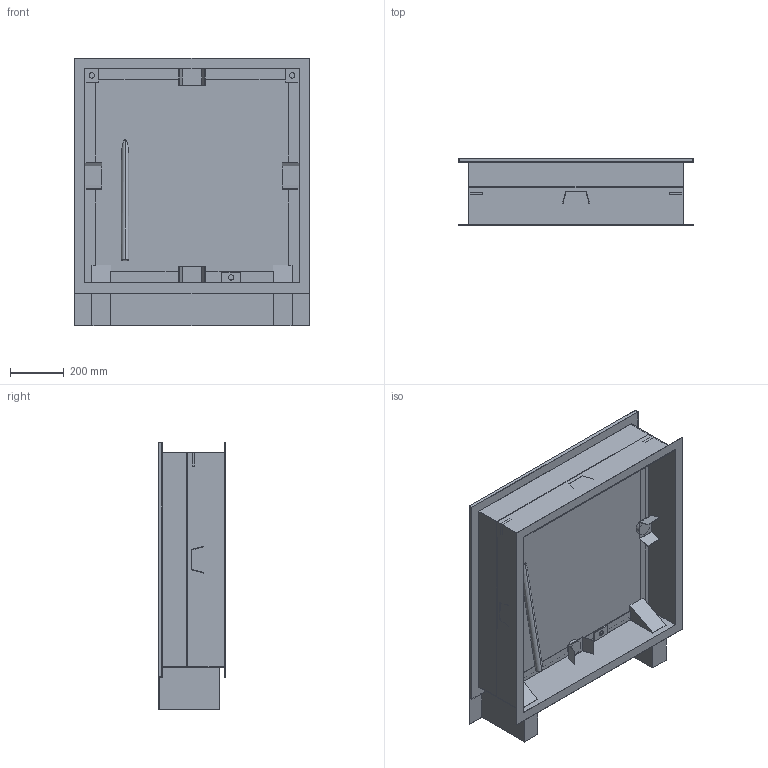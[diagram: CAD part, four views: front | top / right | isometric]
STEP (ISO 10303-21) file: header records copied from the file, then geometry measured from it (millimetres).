
FILE_DESCRIPTION((''),'2;1');
FILE_NAME('51680612','2025-02-04T07:00:33',('hrl'),('HUBER SE'),'CREO PARAMETRIC BY PTC INC, 2022162','CREO PARAMETRIC BY PTC INC, 2022162','');
FILE_SCHEMA(('AUTOMOTIVE_DESIGN { 1 0 10303 214 1 1 1 1 }'));
Length unit declared in the file: millimetre
Products named in the file (1): 51680612
Bounding box: 878 x 250 x 1000 mm (x, y, z)
Volume: 72467955.6 mm3; surface area: 4503539.4 mm2
Topology: 1 solids, 1 shells, 179 faces, 482 edges, 316 vertices
Faces by surface type: plane 143, cylinder 36
Entity records: 6298 total; most frequent: CARTESIAN_POINT 1039, ORIENTED_EDGE 964, DIRECTION 924, EDGE_CURVE 482, VECTOR 394, LINE 394, VERTEX_POINT 316, AXIS2_PLACEMENT_3D 265
